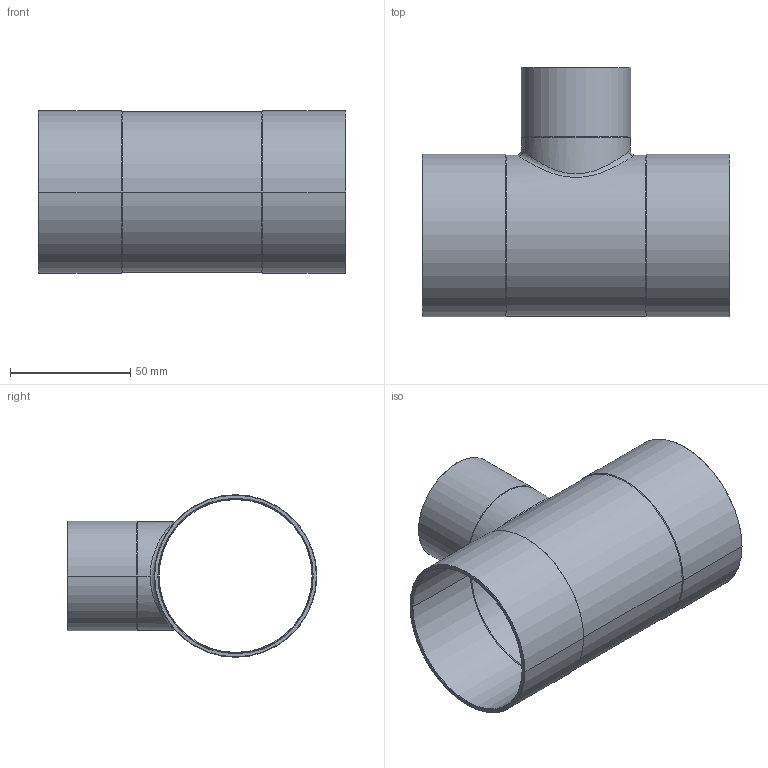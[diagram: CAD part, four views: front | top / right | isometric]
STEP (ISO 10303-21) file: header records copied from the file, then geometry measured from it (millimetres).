
FILE_DESCRIPTION((''),'2;1');
FILE_NAME('G:\Technics\CAD\Bauteile\15130\15130644264.stp','2005-11-02T10:19:58',('boden'),(''),'Autodesk Inventor 8','Autodesk Inventor 8','');
FILE_SCHEMA(('AUTOMOTIVE_DESIGN { 1 0 10303 214 1 1 1 1 }'));
Length unit declared in the file: millimetre
Products named in the file (1): 15130644264
Bounding box: 128 x 103.8 x 67.6 mm (x, y, z)
Volume: 51784.3 mm3; surface area: 61738.7 mm2
Topology: 1 solids, 1 shells, 49 faces, 108 edges, 60 vertices
Faces by surface type: cone 24, cylinder 20, plane 3, bspline 2
Entity records: 1765 total; most frequent: CARTESIAN_POINT 658, DIRECTION 242, ORIENTED_EDGE 216, EDGE_CURVE 108, AXIS2_PLACEMENT_3D 98, VERTEX_POINT 60, EDGE_LOOP 52, CIRCLE 50
